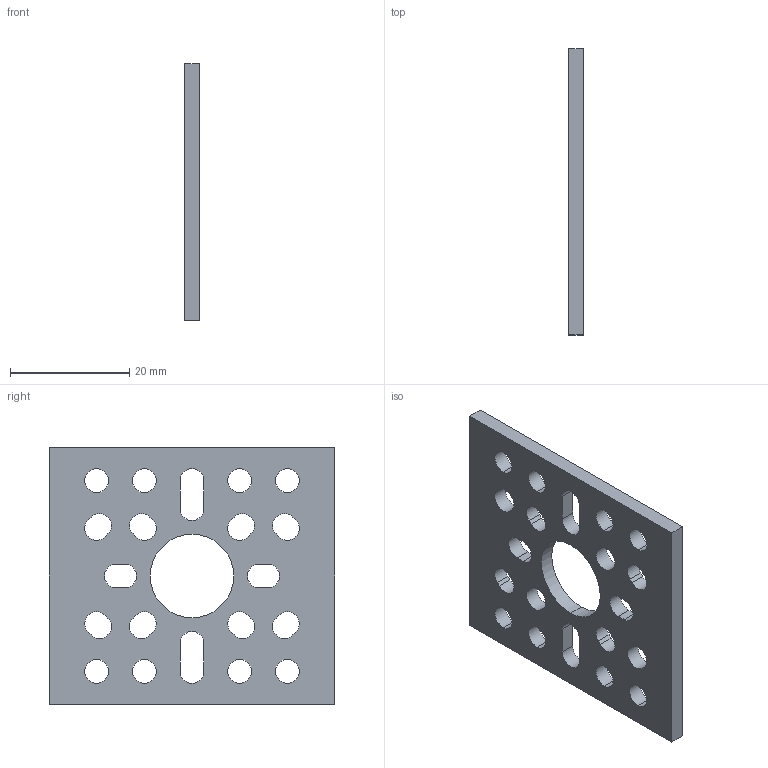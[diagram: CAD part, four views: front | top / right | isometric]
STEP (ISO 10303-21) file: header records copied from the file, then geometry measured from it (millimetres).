
FILE_DESCRIPTION (( 'STEP AP203' ), '1' );
FILE_NAME ('1123-0043-0048.STEP', '2021-12-02T19:34:34', ( '' ), ( '' ), 'SwSTEP 2.0', 'SolidWorks 2016', '' );
FILE_SCHEMA (( 'CONFIG_CONTROL_DESIGN' ));
Length unit declared in the file: millimetre
Products named in the file (1): 1123-0043-0048
Bounding box: 2.5 x 48 x 43 mm (x, y, z)
Volume: 3970.8 mm3; surface area: 4457.9 mm2
Topology: 1 solids, 1 shells, 82 faces, 240 edges, 160 vertices
Faces by surface type: cylinder 52, plane 30
Entity records: 2929 total; most frequent: DIRECTION 510, CARTESIAN_POINT 483, ORIENTED_EDGE 480, EDGE_CURVE 240, AXIS2_PLACEMENT_3D 187, VERTEX_POINT 160, LINE 136, VECTOR 136
